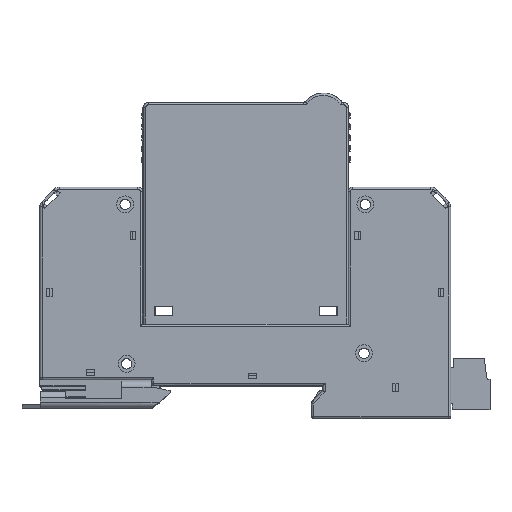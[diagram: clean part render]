
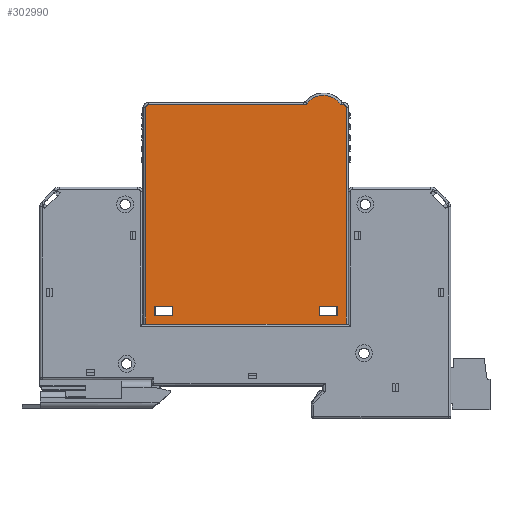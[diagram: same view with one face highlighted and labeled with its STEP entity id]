
A CAD part, top view. The second image highlights one B-rep face of the part: STEP entity #302990.
In plain terms, the highlighted planar face has unit normal (0, 0, 1).
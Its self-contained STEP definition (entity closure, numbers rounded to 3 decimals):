
#294520=CARTESIAN_POINT('',(-21.8,13.5,44.5));
#294530=VERTEX_POINT('',#294520);
#294560=CARTESIAN_POINT('',(0.,13.5,44.5));
#294570=DIRECTION('',(1.,0.,-0.));
#294580=VECTOR('',#294570,1.);
#294590=LINE('',#294560,#294580);
#294600=CARTESIAN_POINT('',(22.1,13.5,44.5));
#294610=VERTEX_POINT('',#294600);
#294620=EDGE_CURVE('',#294530,#294610,#294590,.T.);
#301350=CARTESIAN_POINT('',(-21.8,61.,44.5));
#301360=VERTEX_POINT('',#301350);
#301390=CARTESIAN_POINT('',(-21.8,61.,44.5));
#301400=DIRECTION('',(0.,-1.,0.));
#301410=VECTOR('',#301400,1.);
#301420=LINE('',#301390,#301410);
#301430=EDGE_CURVE('',#301360,#294530,#301420,.T.);
#301560=CARTESIAN_POINT('',(-26.19,8.161,44.5));
#301570=DIRECTION('',(0.,0.,1.));
#301580=DIRECTION('',(1.,0.,-0.));
#301590=AXIS2_PLACEMENT_3D('',#301560,#301570,#301580);
#301600=PLANE('',#301590);
#301610=ORIENTED_EDGE('',*,*,#294620,.T.);
#301620=ORIENTED_EDGE('',*,*,#301430,.T.);
#301630=CARTESIAN_POINT('',(-21.3,61.,44.5));
#301640=DIRECTION('',(0.,0.,1.));
#301650=DIRECTION('',(1.,0.,-0.));
#301660=AXIS2_PLACEMENT_3D('',#301630,#301640,#301650);
#301670=CIRCLE('',#301660,0.5);
#301680=CARTESIAN_POINT('',(-21.3,61.5,44.5));
#301690=VERTEX_POINT('',#301680);
#301700=EDGE_CURVE('',#301690,#301360,#301670,.T.);
#301710=ORIENTED_EDGE('',*,*,#301700,.T.);
#301720=CARTESIAN_POINT('',(12.777,61.5,44.5));
#301730=DIRECTION('',(-1.,0.,0.));
#301740=VECTOR('',#301730,1.);
#301750=LINE('',#301720,#301740);
#301760=CARTESIAN_POINT('',(12.777,61.5,44.5));
#301770=VERTEX_POINT('',#301760);
#301780=EDGE_CURVE('',#301770,#301690,#301750,.T.);
#301790=ORIENTED_EDGE('',*,*,#301780,.T.);
#301800=CARTESIAN_POINT('',(12.777,62.5,44.5));
#301810=DIRECTION('',(0.,0.,-1.));
#301820=DIRECTION('',(-1.,0.,-0.));
#301830=AXIS2_PLACEMENT_3D('',#301800,#301810,#301820);
#301840=CIRCLE('',#301830,1.);
#301850=CARTESIAN_POINT('',(13.563,61.882,44.5));
#301860=VERTEX_POINT('',#301850);
#301870=EDGE_CURVE('',#301860,#301770,#301840,.T.);
#301880=ORIENTED_EDGE('',*,*,#301870,.T.);
#301890=CARTESIAN_POINT('',(17.1,59.1,44.5));
#301900=DIRECTION('',(0.,0.,1.));
#301910=DIRECTION('',(1.,0.,-0.));
#301920=AXIS2_PLACEMENT_3D('',#301890,#301900,#301910);
#301930=CIRCLE('',#301920,4.5);
#301940=CARTESIAN_POINT('',(20.907,61.5,44.5));
#301950=VERTEX_POINT('',#301940);
#301960=EDGE_CURVE('',#301950,#301860,#301930,.T.);
#301970=ORIENTED_EDGE('',*,*,#301960,.T.);
#301980=CARTESIAN_POINT('',(20.907,61.5,44.5));
#301990=DIRECTION('',(0.108,0.994,0.));
#302000=VECTOR('',#301990,1.);
#302010=LINE('',#301980,#302000);
#302020=CARTESIAN_POINT('',(20.907,61.5,44.5));
#302030=VERTEX_POINT('',#302020);
#302040=EDGE_CURVE('',#302030,#301950,#302010,.T.);
#302050=ORIENTED_EDGE('',*,*,#302040,.T.);
#302060=CARTESIAN_POINT('',(21.6,61.5,44.5));
#302070=DIRECTION('',(-1.,0.,0.));
#302080=VECTOR('',#302070,1.);
#302090=LINE('',#302060,#302080);
#302100=CARTESIAN_POINT('',(21.6,61.5,44.5));
#302110=VERTEX_POINT('',#302100);
#302120=EDGE_CURVE('',#302110,#302030,#302090,.T.);
#302130=ORIENTED_EDGE('',*,*,#302120,.T.);
#302140=CARTESIAN_POINT('',(21.6,61.,44.5));
#302150=DIRECTION('',(0.,0.,1.));
#302160=DIRECTION('',(1.,0.,-0.));
#302170=AXIS2_PLACEMENT_3D('',#302140,#302150,#302160);
#302180=CIRCLE('',#302170,0.5);
#302190=CARTESIAN_POINT('',(22.1,61.,44.5));
#302200=VERTEX_POINT('',#302190);
#302210=EDGE_CURVE('',#302200,#302110,#302180,.T.);
#302220=ORIENTED_EDGE('',*,*,#302210,.T.);
#302230=CARTESIAN_POINT('',(22.1,13.5,44.5));
#302240=DIRECTION('',(0.,1.,0.));
#302250=VECTOR('',#302240,1.);
#302260=LINE('',#302230,#302250);
#302270=EDGE_CURVE('',#294610,#302200,#302260,.T.);
#302280=ORIENTED_EDGE('',*,*,#302270,.T.);
#302290=EDGE_LOOP('',(#302280,#302220,#302130,#302050,#301970,#301880,
#301790,#301710,#301620,#301610));
#302300=FACE_OUTER_BOUND('',#302290,.T.);
#302310=CARTESIAN_POINT('',(0.,17.4,44.5));
#302320=DIRECTION('',(1.,-0.,-0.));
#302330=VECTOR('',#302320,1.);
#302340=LINE('',#302310,#302330);
#302350=CARTESIAN_POINT('',(-19.85,17.4,44.5));
#302360=VERTEX_POINT('',#302350);
#302370=CARTESIAN_POINT('',(-15.85,17.4,44.5));
#302380=VERTEX_POINT('',#302370);
#302390=EDGE_CURVE('',#302360,#302380,#302340,.T.);
#302400=ORIENTED_EDGE('',*,*,#302390,.T.);
#302410=CARTESIAN_POINT('',(-19.85,0.,44.5));
#302420=DIRECTION('',(0.,1.,-0.));
#302430=VECTOR('',#302420,1.);
#302440=LINE('',#302410,#302430);
#302450=CARTESIAN_POINT('',(-19.85,15.4,44.5));
#302460=VERTEX_POINT('',#302450);
#302470=EDGE_CURVE('',#302460,#302360,#302440,.T.);
#302480=ORIENTED_EDGE('',*,*,#302470,.T.);
#302490=CARTESIAN_POINT('',(0.,15.4,44.5));
#302500=DIRECTION('',(-1.,-0.,-0.));
#302510=VECTOR('',#302500,1.);
#302520=LINE('',#302490,#302510);
#302530=CARTESIAN_POINT('',(-15.85,15.4,44.5));
#302540=VERTEX_POINT('',#302530);
#302550=EDGE_CURVE('',#302540,#302460,#302520,.T.);
#302560=ORIENTED_EDGE('',*,*,#302550,.T.);
#302570=CARTESIAN_POINT('',(-15.85,0.,44.5));
#302580=DIRECTION('',(0.,-1.,-0.));
#302590=VECTOR('',#302580,1.);
#302600=LINE('',#302570,#302590);
#302610=EDGE_CURVE('',#302380,#302540,#302600,.T.);
#302620=ORIENTED_EDGE('',*,*,#302610,.T.);
#302630=EDGE_LOOP('',(#302620,#302560,#302480,#302400));
#302640=FACE_BOUND('',#302630,.T.);
#302650=CARTESIAN_POINT('',(0.,17.4,44.5));
#302660=DIRECTION('',(1.,-0.,-0.));
#302670=VECTOR('',#302660,1.);
#302680=LINE('',#302650,#302670);
#302690=CARTESIAN_POINT('',(16.15,17.4,44.5));
#302700=VERTEX_POINT('',#302690);
#302710=CARTESIAN_POINT('',(20.15,17.4,44.5));
#302720=VERTEX_POINT('',#302710);
#302730=EDGE_CURVE('',#302700,#302720,#302680,.T.);
#302740=ORIENTED_EDGE('',*,*,#302730,.T.);
#302750=CARTESIAN_POINT('',(16.15,0.,44.5));
#302760=DIRECTION('',(0.,1.,-0.));
#302770=VECTOR('',#302760,1.);
#302780=LINE('',#302750,#302770);
#302790=CARTESIAN_POINT('',(16.15,15.4,44.5));
#302800=VERTEX_POINT('',#302790);
#302810=EDGE_CURVE('',#302800,#302700,#302780,.T.);
#302820=ORIENTED_EDGE('',*,*,#302810,.T.);
#302830=CARTESIAN_POINT('',(0.,15.4,44.5));
#302840=DIRECTION('',(-1.,-0.,-0.));
#302850=VECTOR('',#302840,1.);
#302860=LINE('',#302830,#302850);
#302870=CARTESIAN_POINT('',(20.15,15.4,44.5));
#302880=VERTEX_POINT('',#302870);
#302890=EDGE_CURVE('',#302880,#302800,#302860,.T.);
#302900=ORIENTED_EDGE('',*,*,#302890,.T.);
#302910=CARTESIAN_POINT('',(20.15,0.,44.5));
#302920=DIRECTION('',(0.,-1.,-0.));
#302930=VECTOR('',#302920,1.);
#302940=LINE('',#302910,#302930);
#302950=EDGE_CURVE('',#302720,#302880,#302940,.T.);
#302960=ORIENTED_EDGE('',*,*,#302950,.T.);
#302970=EDGE_LOOP('',(#302960,#302900,#302820,#302740));
#302980=FACE_BOUND('',#302970,.T.);
#302990=ADVANCED_FACE('',(#302300,#302640,#302980),#301600,.T.);
